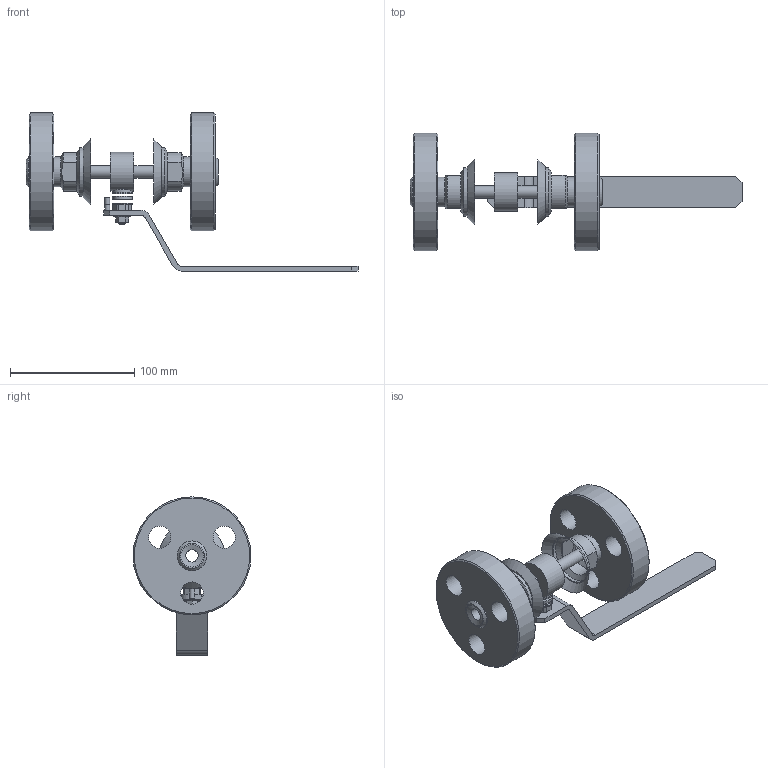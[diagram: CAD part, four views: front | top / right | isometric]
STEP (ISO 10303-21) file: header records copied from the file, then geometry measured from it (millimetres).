
FILE_DESCRIPTION(('STEP AP203'), '1');
FILE_NAME('ZARDP 010.250.26.P.stp', '2013-12-05T08:34:23', ('User'), ('Computer'), 'ASCON STEP Converter 1.3', 'Kompas 3D', '');
FILE_SCHEMA(('CONFIG_CONTROL_DESIGN','SUPPORT_RESOURCE_SCHEMA'));
Length unit declared in the file: millimetre
Products named in the file (1): 39
Bounding box: 267.5 x 95 x 127.5 mm (x, y, z)
Volume: 419696.3 mm3; surface area: 81221.8 mm2
Topology: 1 solids, 3 shells, 175 faces, 407 edges, 247 vertices
Faces by surface type: plane 92, cylinder 51, cone 31, bspline 1
Full cylindrical faces by diameter (mm): 4 x2, 6 x2, 8.673 x1, 9 x1, 10 x4, 14.2 x1, 15.8 x1, 16 x2, 18 x6, 24 x4, 31.4 x1, 39 x2, 53 x1, 95 x2
Entity records: 6675 total; most frequent: CARTESIAN_POINT 2505, DIRECTION 889, ORIENTED_EDGE 812, EDGE_CURVE 406, AXIS2_PLACEMENT_3D 341, VERTEX_POINT 247, EDGE_LOOP 211, LINE 207
